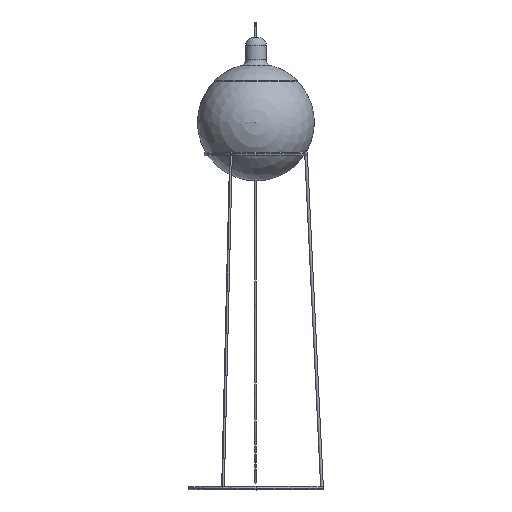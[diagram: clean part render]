
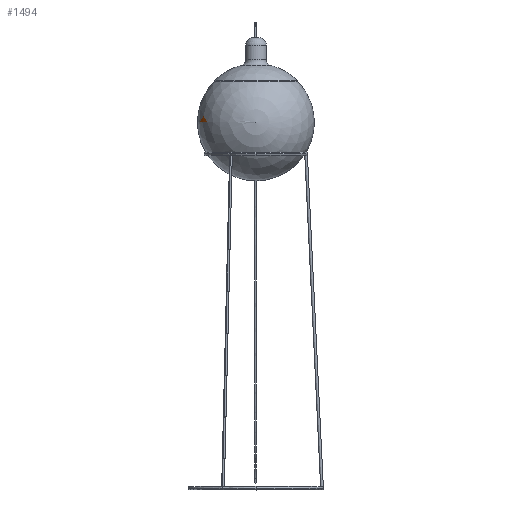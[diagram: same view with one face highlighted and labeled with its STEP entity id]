
A CAD part, top view. The second image highlights one B-rep face of the part: STEP entity #1494.
In plain terms, the highlighted spherical face has radius 175 mm.
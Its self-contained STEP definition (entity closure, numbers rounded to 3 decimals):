
#93 = CIRCLE ( 'NONE', #2143, 175. ) ;
#136 = DIRECTION ( 'NONE',  ( 0., 0., -1. ) ) ;
#322 = DIRECTION ( 'NONE',  ( -1., 0., 0. ) ) ;
#522 = EDGE_CURVE ( 'NONE', #2254, #795, #93, .T. ) ;
#757 = AXIS2_PLACEMENT_3D ( 'NONE', #1219, #136, #322 ) ;
#795 = VERTEX_POINT ( 'NONE', #1836 ) ;
#847 = CIRCLE ( 'NONE', #2167, 175. ) ;
#940 = DIRECTION ( 'NONE',  ( 0., 0., -1. ) ) ;
#1210 = DIRECTION ( 'NONE',  ( 0., 0., 1. ) ) ;
#1219 = CARTESIAN_POINT ( 'NONE',  ( 0., 0., 0. ) ) ;
#1277 = DIRECTION ( 'NONE',  ( 1., 0., 0. ) ) ;
#1322 = DIRECTION ( 'NONE',  ( -1., 0., 0. ) ) ;
#1393 = CARTESIAN_POINT ( 'NONE',  ( 0., 0., 0. ) ) ;
#1494 = ADVANCED_FACE ( 'NONE', ( #2053 ), #2117, .T. ) ;
#1507 = EDGE_CURVE ( 'NONE', #2254, #795, #847, .T. ) ;
#1557 = ORIENTED_EDGE ( 'NONE', *, *, #1507, .T. ) ;
#1602 = CARTESIAN_POINT ( 'NONE',  ( 0., 175., 0. ) ) ;
#1682 = CARTESIAN_POINT ( 'NONE',  ( 0., 0., 0. ) ) ;
#1836 = CARTESIAN_POINT ( 'NONE',  ( 0., -175., 0. ) ) ;
#2053 = FACE_OUTER_BOUND ( 'NONE', #2304, .T. ) ;
#2117 = SPHERICAL_SURFACE ( 'NONE', #757, 175. ) ;
#2120 = ORIENTED_EDGE ( 'NONE', *, *, #522, .F. ) ;
#2143 = AXIS2_PLACEMENT_3D ( 'NONE', #1682, #940, #1322 ) ;
#2167 = AXIS2_PLACEMENT_3D ( 'NONE', #1393, #1210, #1277 ) ;
#2254 = VERTEX_POINT ( 'NONE', #1602 ) ;
#2304 = EDGE_LOOP ( 'NONE', ( #2120, #1557 ) ) ;
